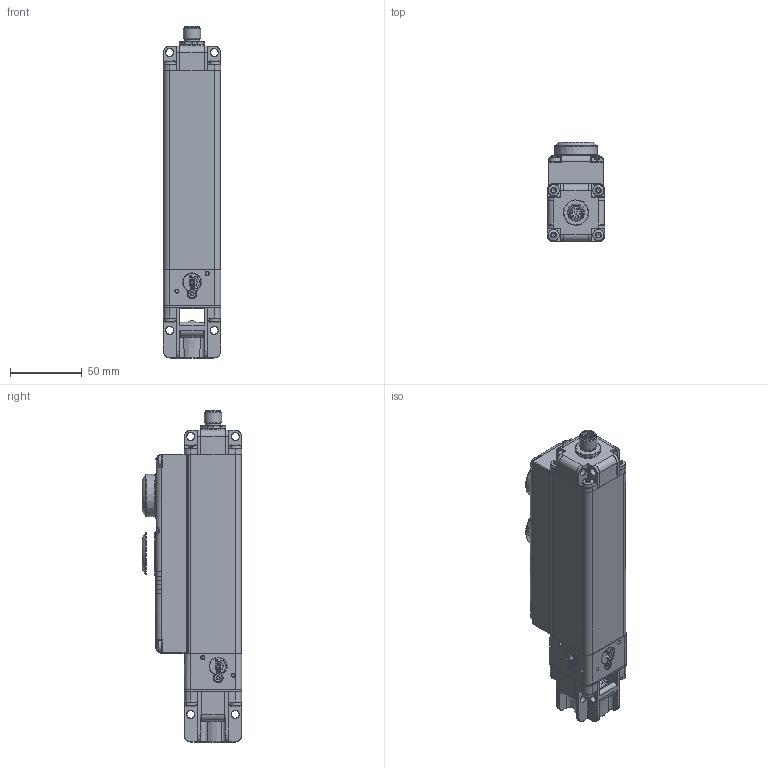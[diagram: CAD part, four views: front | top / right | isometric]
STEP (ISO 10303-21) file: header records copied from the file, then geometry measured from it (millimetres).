
FILE_DESCRIPTION(/* description */ (''),/* implementation_level */ '2;1');
FILE_NAME(/* name */ '2036733_A_PSENmg1-A-xxxxx-Fxxx-Sx.stp',/* time_stamp */ '2024-07-05T14:35:50+02:00',/* author */ ('rvet'),/* organization */ (''),/* preprocessor_version */ 'ST-DEVELOPER v20',/* originating_system */ 'Autodesk Inventor 2024',/* authorisation */ '');
FILE_SCHEMA (('AUTOMOTIVE_DESIGN { 1 0 10303 214 3 1 1 }'));
Products named in the file (1): 2036733
Bounding box: 40 x 69.25 x 231.2 mm (x, y, z)
Volume: 422877.5 mm3; surface area: 60615.8 mm2
Topology: 1 solids, 1 shells, 1908 faces, 4776 edges, 2907 vertices
Faces by surface type: cylinder 633, plane 439, bspline 335, cone 257, torus 183, sphere 61
Full cylindrical faces by diameter (mm): 0.6 x12, 2.693 x3, 3.1 x3, 5.5 x11, 8.2 x2, 8.3 x1, 9 x1, 10 x1, 10.5 x1, 10.6 x1, 12 x2, 12.15 x1, 16.1 x1, 17 x1, 19.85 x2, 20 x1, 22.642 x2, 28.6 x2, 29.2 x2
Entity records: 72579 total; most frequent: CARTESIAN_POINT 29068, ORIENTED_EDGE 9484, DIRECTION 8590, EDGE_CURVE 4742, AXIS2_PLACEMENT_3D 3473, VERTEX_POINT 2907, EDGE_LOOP 2023, FACE_OUTER_BOUND 1908
